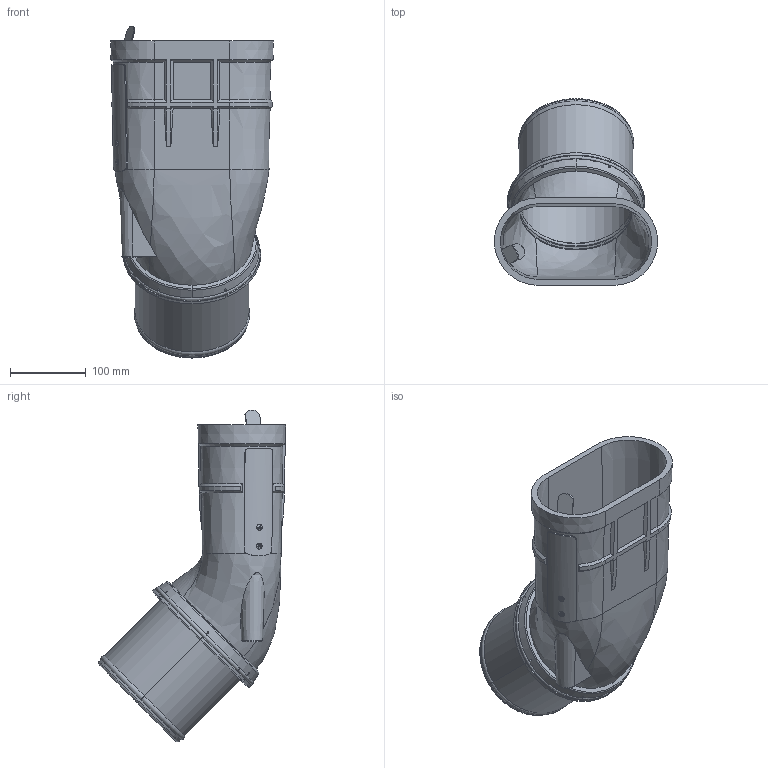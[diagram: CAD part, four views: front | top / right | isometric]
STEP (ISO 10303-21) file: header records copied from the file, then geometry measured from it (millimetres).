
FILE_DESCRIPTION((''),'2;1');
FILE_NAME('124242','2019-06-11T15:08:59',('Tomas Bellgran'),(''),'CREO PARAMETRIC BY PTC INC, 2018260','CREO PARAMETRIC BY PTC INC, 2018260','');
FILE_SCHEMA(('AUTOMOTIVE_DESIGN { 1 0 10303 214 1 1 1 1 }'));
Length unit declared in the file: millimetre
Products named in the file (7): 123944; 9531238; 145-210-3; 111000; 124209; 123782; 124242
Assembly tree (7 placements, depth 2):
  124242
    123944
    9531238
    145-210-3
    111000
    124209  x2
    123782
Bounding box: 216 x 247.7 x 439.51 mm (x, y, z)
Volume: 1072934.2 mm3; surface area: 529923.9 mm2
Topology: 7 solids, 9 shells, 350 faces, 942 edges, 598 vertices
Faces by surface type: plane 115, cylinder 98, cone 59, torus 46, bspline 22, extrusion 6, sphere 4
Entity records: 19787 total; most frequent: CARTESIAN_POINT 7277, ORIENTED_EDGE 1826, DIRECTION 1710, EDGE_CURVE 918, AXIS2_PLACEMENT_3D 670, PRESENTATION_STYLE_ASSIGNMENT 627, STYLED_ITEM 627, CURVE_STYLE 620
